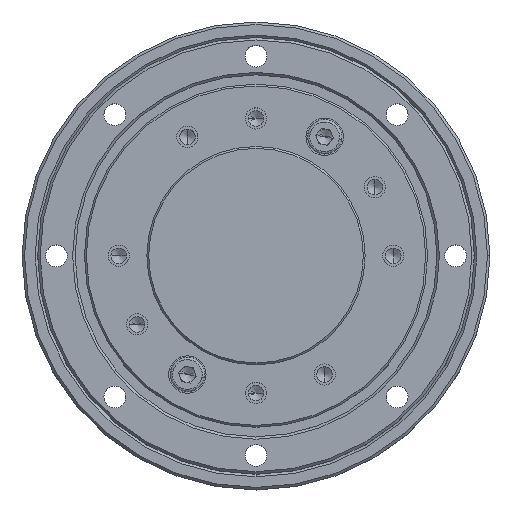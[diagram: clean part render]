
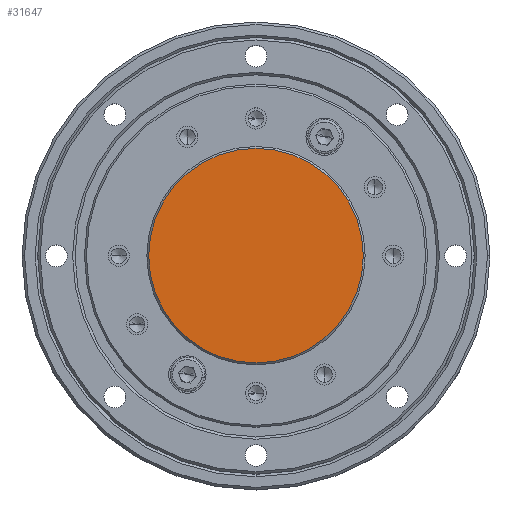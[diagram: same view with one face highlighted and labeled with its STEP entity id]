
A CAD part, top view. The second image highlights one B-rep face of the part: STEP entity #31647.
In plain terms, the highlighted planar face has unit normal (0, 0, 1) as drawn and (-1, 0, 0) by its records, which use the part's own axes.
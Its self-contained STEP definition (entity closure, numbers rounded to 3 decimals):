
#211 = VERTEX_POINT ( 'NONE', #11944 ) ;
#3060 = AXIS2_PLACEMENT_3D ( 'NONE', #4697, #30854, #8435 ) ;
#4697 = CARTESIAN_POINT ( 'NONE',  ( 2.009, 0., 0. ) ) ;
#7871 = EDGE_LOOP ( 'NONE', ( #30848, #37534 ) ) ;
#7920 = CARTESIAN_POINT ( 'NONE',  ( 2.009, 0., 0. ) ) ;
#8435 = DIRECTION ( 'NONE',  ( 0., 1., 0. ) ) ;
#11511 = CARTESIAN_POINT ( 'NONE',  ( 2.009, 0., 0. ) ) ;
#11687 = DIRECTION ( 'NONE',  ( 1., 0., 0. ) ) ;
#11944 = CARTESIAN_POINT ( 'NONE',  ( 2.009, -17.2, 0. ) ) ;
#14072 = AXIS2_PLACEMENT_3D ( 'NONE', #7920, #11687, #37887 ) ;
#15255 = DIRECTION ( 'NONE',  ( 0., 1., 0. ) ) ;
#18762 = EDGE_CURVE ( 'NONE', #211, #40425, #22118, .T. ) ;
#22118 = CIRCLE ( 'NONE', #36465, 17.2 ) ;
#28695 = FACE_OUTER_BOUND ( 'NONE', #7871, .T. ) ;
#30349 = PLANE ( 'NONE',  #14072 ) ;
#30848 = ORIENTED_EDGE ( 'NONE', *, *, #48314, .F. ) ;
#30854 = DIRECTION ( 'NONE',  ( 1., 0., 0. ) ) ;
#31647 = ADVANCED_FACE ( 'NONE', ( #28695 ), #30349, .F. ) ;
#36465 = AXIS2_PLACEMENT_3D ( 'NONE', #11511, #37698, #15255 ) ;
#37534 = ORIENTED_EDGE ( 'NONE', *, *, #18762, .F. ) ;
#37698 = DIRECTION ( 'NONE',  ( 1., 0., 0. ) ) ;
#37887 = DIRECTION ( 'NONE',  ( 0., 1., 0. ) ) ;
#40425 = VERTEX_POINT ( 'NONE', #42611 ) ;
#42611 = CARTESIAN_POINT ( 'NONE',  ( 2.009, 17.2, 0. ) ) ;
#47124 = CIRCLE ( 'NONE', #3060, 17.2 ) ;
#48314 = EDGE_CURVE ( 'NONE', #40425, #211, #47124, .T. ) ;
